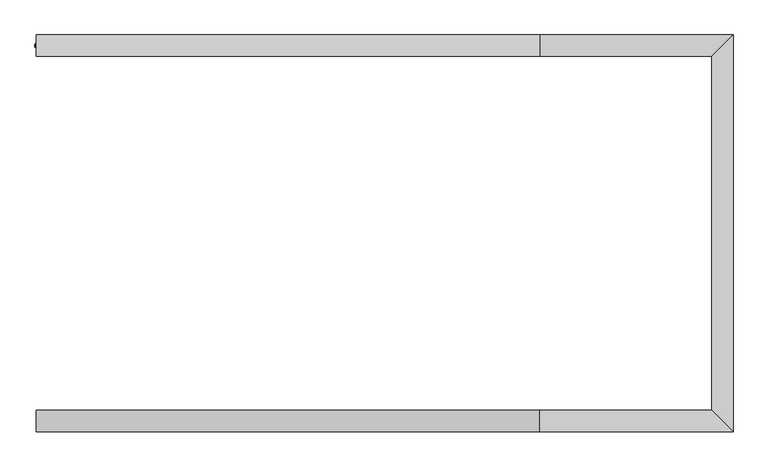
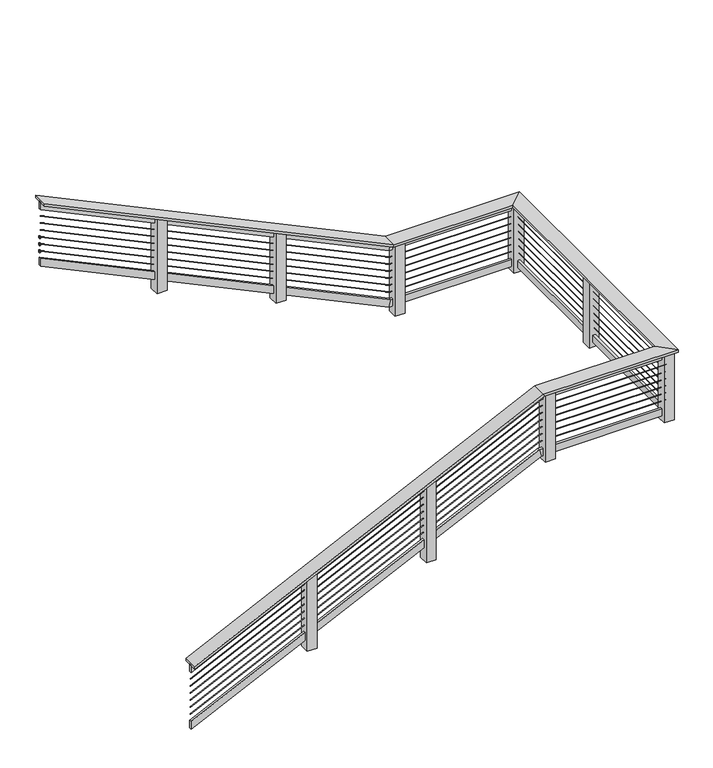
"""IFC4 building model written with IfcOpenShell, lengths in millimetres: railing geometry, HandiSwage Cable Railing System."""

from ifc_helpers import new_model, si_unit, point, frame, origin, place, context, project, spatial, polyline, circle_curve, ellipse_curve, trimmed, outline, extrude, faceted_brep, source, transform, mapped, element, save
from ifc_brep_helpers import plane_surface, cylinder_surface, revolved_surface, advanced_brep


def railing_a2ca8ca1(model_context):
    return source(origin(), model_context, "Body", "SolidModel", [
        faceted_brep([(1654.9861243, 1016.2935787, 921.4786723), (1654.9861243, 1168.6935787, 921.4786723), (1654.9861243, 1168.6935787, 893.366387), (1654.9861243, 1016.2935787, 893.366387), (5230.3519234, 1016.2935787, 2617.3043478), (5230.3519234, 1168.6935787, 2617.3043478), (5236.0703251, 1168.6935787, 2591.9043478), (5236.0703251, 1016.2935787, 2591.9043478), (6607.9861243, 1016.2935787, 2617.3043478), (6455.5861243, 1168.6935787, 2617.3043478), (6455.5861243, 1168.6935787, 2591.9043478), (6607.9861243, 1016.2935787, 2591.9043478), (6607.9861243, 3835.6935787, 2617.3043478), (6455.5861243, 3683.2935787, 2617.3043478), (6455.5861243, 3683.2935787, 2591.9043478), (6607.9861243, 3835.6935787, 2591.9043478), (5236.0703251, 3835.6935787, 2617.3043478), (5236.0703251, 3683.2935787, 2617.3043478), (5230.3519234, 3683.2935787, 2591.9043478), (5230.3519234, 3835.6935787, 2591.9043478), (1654.9861243, 3835.6935787, 4315.8423087), (1654.9861243, 3835.6935787, 4287.7300233), (1654.9861243, 3683.2935787, 4287.7300233), (1654.9861243, 3683.2935787, 4315.8423087)], [[[0, 1, 2, 3]], [[1, 0, 4, 5]], [[2, 1, 5, 6]], [[3, 2, 6, 7]], [[0, 3, 7, 4]], [[5, 4, 8, 9]], [[6, 5, 9, 10]], [[7, 6, 10, 11]], [[4, 7, 11, 8]], [[9, 8, 12, 13]], [[10, 9, 13, 14]], [[11, 10, 14, 15]], [[8, 11, 15, 12]], [[13, 12, 16, 17]], [[14, 13, 17, 18]], [[15, 14, 18, 19]], [[12, 15, 19, 16]], [[20, 21, 22, 23]], [[17, 16, 20, 23]], [[18, 17, 23, 22]], [[19, 18, 22, 21]], [[16, 19, 21, 20]]]),
        faceted_brep([(1654.9861243, 1079.7935787, 898.7909577), (1654.9861243, 1105.1935787, 898.7909577), (1654.9861243, 1105.1935787, 814.4541016), (1654.9861243, 1079.7935787, 814.4541016), (5224.6335217, 1079.7935787, 2591.9043478), (5224.6335217, 1105.1935787, 2591.9043478), (5241.7887268, 1105.1935787, 2515.7043478), (5241.7887268, 1079.7935787, 2515.7043478), (6544.4861243, 1079.7935787, 2591.9043478), (6519.0861243, 1105.1935787, 2591.9043478), (6519.0861243, 1105.1935787, 2515.7043478), (6544.4861243, 1079.7935787, 2515.7043478), (6544.4861243, 3772.1935787, 2591.9043478), (6519.0861243, 3746.7935787, 2591.9043478), (6519.0861243, 3746.7935787, 2515.7043478), (6544.4861243, 3772.1935787, 2515.7043478), (5241.7887268, 3772.1935787, 2591.9043478), (5241.7887268, 3746.7935787, 2591.9043478), (5224.6335217, 3746.7935787, 2515.7043478), (5224.6335217, 3772.1935787, 2515.7043478), (1654.9861243, 3772.1935787, 4293.1545941), (1654.9861243, 3772.1935787, 4208.8177379), (1654.9861243, 3746.7935787, 4208.8177379), (1654.9861243, 3746.7935787, 4293.1545941)], [[[0, 1, 2, 3]], [[1, 0, 4, 5]], [[2, 1, 5, 6]], [[3, 2, 6, 7]], [[0, 3, 7, 4]], [[5, 4, 8, 9]], [[6, 5, 9, 10]], [[7, 6, 10, 11]], [[4, 7, 11, 8]], [[9, 8, 12, 13]], [[10, 9, 13, 14]], [[11, 10, 14, 15]], [[8, 11, 15, 12]], [[13, 12, 16, 17]], [[14, 13, 17, 18]], [[15, 14, 18, 19]], [[12, 15, 19, 16]], [[20, 21, 22, 23]], [[17, 16, 20, 23]], [[18, 17, 23, 22]], [[19, 18, 22, 21]], [[16, 19, 21, 20]]]),
        advanced_brep(
        [(1654.9861243, 1094.0314985, 742.3225296), (1654.9861243, 1090.955659, 742.3225296), (5233.2111243, 1094.0314985, 2439.5043478), (5233.2111243, 1090.955659, 2439.5043478), (6530.2482045, 1094.0314985, 2439.5043478), (6533.324044, 1090.955659, 2439.5043478), (6530.2482045, 3757.955659, 2439.5043478), (6533.324044, 3761.0314985, 2439.5043478), (5233.2111243, 3757.955659, 2439.5043478), (5233.2111243, 3761.0314985, 2439.5043478), (1654.9861243, 3757.955659, 4136.686166), (1654.9861243, 3761.0314985, 4136.686166)],
        [
            (0, 1, ellipse_curve(frame((1654.9861243, 1092.4935787, 742.3225296), z_axis=(-1.0, 0.0, 0.0), x_axis=(0.0, 0.0, -1.0)), 1.7021433, 1.5379197)),
            (1, 0, ellipse_curve(frame((1654.9861243, 1092.4935787, 742.3225296), z_axis=(-1.0, 0.0, 0.0), x_axis=(0.0, 0.0, -1.0)), 1.7021433, 1.5379197)),
            (0, 2),
            (2, 3, ellipse_curve(frame((5233.2111243, 1092.4935787, 2439.5043478), z_axis=(-0.9755817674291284, 0.0, -0.21963655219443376), x_axis=(0.2196365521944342, 0.0, -0.9755817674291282)), 1.576413, 1.5379197)),
            (3, 1),
            (3, 2, ellipse_curve(frame((5233.2111243, 1092.4935787, 2439.5043478), z_axis=(-0.9755817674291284, 0.0, -0.21963655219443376), x_axis=(0.2196365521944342, 0.0, -0.9755817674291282)), 1.576413, 1.5379197)),
            (2, 4),
            (4, 5, ellipse_curve(frame((6531.7861243, 1092.4935787, 2439.5043478), z_axis=(-0.7071067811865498, -0.7071067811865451, 0.0), x_axis=(-0.7071067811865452, 0.7071067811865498, 0.0)), 2.174947, 1.5379197)),
            (5, 3),
            (5, 4, ellipse_curve(frame((6531.7861243, 1092.4935787, 2439.5043478), z_axis=(-0.7071067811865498, -0.7071067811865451, 0.0), x_axis=(-0.7071067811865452, 0.7071067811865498, 0.0)), 2.174947, 1.5379197)),
            (4, 6),
            (6, 7, ellipse_curve(frame((6531.7861243, 3759.4935787, 2439.5043478), z_axis=(0.7071067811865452, -0.7071067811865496, 0.0), x_axis=(-0.7071067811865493, -0.7071067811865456, 0.0)), 2.174947, 1.5379197)),
            (7, 5),
            (7, 6, ellipse_curve(frame((6531.7861243, 3759.4935787, 2439.5043478), z_axis=(0.7071067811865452, -0.7071067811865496, 0.0), x_axis=(-0.7071067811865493, -0.7071067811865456, 0.0)), 2.174947, 1.5379197)),
            (6, 8),
            (8, 9, ellipse_curve(frame((5233.2111243, 3759.4935787, 2439.5043478), z_axis=(0.975581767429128, 0.0, -0.21963655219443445), x_axis=(0.21963655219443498, 0.0, 0.975581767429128)), 1.576413, 1.5379197)),
            (9, 7),
            (9, 8, ellipse_curve(frame((5233.2111243, 3759.4935787, 2439.5043478), z_axis=(0.975581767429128, 0.0, -0.21963655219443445), x_axis=(0.21963655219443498, 0.0, 0.975581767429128)), 1.576413, 1.5379197)),
            (10, 11, ellipse_curve(frame((1654.9861243, 3759.4935787, 4136.686166), z_axis=(-1.0, 0.0, 0.0), x_axis=(0.0, 0.0, -1.0)), 1.7021433, 1.5379197)),
            (11, 10, ellipse_curve(frame((1654.9861243, 3759.4935787, 4136.686166), z_axis=(-1.0, 0.0, 0.0), x_axis=(0.0, 0.0, -1.0)), 1.7021433, 1.5379197)),
            (8, 10),
            (11, 9),
        ],
        [
            plane_surface(frame((1654.9861243, 1092.4935787, 742.3225296), z_axis=(-1.0, 0.0, 0.0), x_axis=(0.0, 1.0, 0.0))),
            cylinder_surface(frame((1654.9861243, 1092.4935787, 742.3225296), z_axis=(-0.9035195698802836, 0.0, -0.4285468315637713), x_axis=(0.0, -1.0, 0.0)), 1.5379197),
            cylinder_surface(frame((5233.2111243, 1092.4935787, 2439.5043478), z_axis=(-1.0, 0.0, 0.0), x_axis=(0.0, -1.0, 0.0)), 1.5379197),
            cylinder_surface(frame((6531.7861243, 1092.4935787, 2439.5043478), z_axis=(0.0, -1.0, 0.0), x_axis=(1.0, 0.0, 0.0)), 1.5379197),
            cylinder_surface(frame((6531.7861243, 3759.4935787, 2439.5043478), z_axis=(1.0, 0.0, 0.0), x_axis=(0.0, 1.0, 0.0)), 1.5379197),
            plane_surface(frame((1654.9861243, 3759.4935787, 4136.686166), z_axis=(-1.0, 0.0, 0.0), x_axis=(0.0, -1.0, 0.0))),
            cylinder_surface(frame((5233.2111243, 3759.4935787, 2439.5043478), z_axis=(0.9035195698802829, 0.0, -0.4285468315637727), x_axis=(0.0, 1.0, 0.0)), 1.5379197),
        ],
        [
            (0, [[1, 2]]),
            (1, [[-1, 3, 4, 5]]),
            (1, [[-2, -5, 6, -3]]),
            (2, [[-4, 7, 8, 9]]),
            (2, [[-6, -9, 10, -7]]),
            (3, [[-8, 11, 12, 13]]),
            (3, [[-10, -13, 14, -11]]),
            (4, [[-12, 15, 16, 17]]),
            (4, [[-14, -17, 18, -15]]),
            (5, [[19, 20]]),
            (6, [[-16, 21, -20, 22]]),
            (6, [[-18, -22, -19, -21]]),
        ],
    ),
        advanced_brep(
        [(1654.9861243, 1094.0314985, 666.1225296), (1654.9861243, 1090.955659, 666.1225296), (5233.2111243, 1094.0314985, 2363.3043478), (5233.2111243, 1090.955659, 2363.3043478), (6530.2482045, 1094.0314985, 2363.3043478), (6533.324044, 1090.955659, 2363.3043478), (6530.2482045, 3757.955659, 2363.3043478), (6533.324044, 3761.0314985, 2363.3043478), (5233.2111243, 3757.955659, 2363.3043478), (5233.2111243, 3761.0314985, 2363.3043478), (1654.9861243, 3757.955659, 4060.486166), (1654.9861243, 3761.0314985, 4060.486166)],
        [
            (0, 1, ellipse_curve(frame((1654.9861243, 1092.4935787, 666.1225296), z_axis=(-1.0, 0.0, 0.0), x_axis=(0.0, 0.0, -1.0)), 1.7021433, 1.5379197)),
            (1, 0, ellipse_curve(frame((1654.9861243, 1092.4935787, 666.1225296), z_axis=(-1.0, 0.0, 0.0), x_axis=(0.0, 0.0, -1.0)), 1.7021433, 1.5379197)),
            (0, 2),
            (2, 3, ellipse_curve(frame((5233.2111243, 1092.4935787, 2363.3043478), z_axis=(-0.9755817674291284, 0.0, -0.21963655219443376), x_axis=(0.2196365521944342, 0.0, -0.9755817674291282)), 1.576413, 1.5379197)),
            (3, 1),
            (3, 2, ellipse_curve(frame((5233.2111243, 1092.4935787, 2363.3043478), z_axis=(-0.9755817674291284, 0.0, -0.21963655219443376), x_axis=(0.2196365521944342, 0.0, -0.9755817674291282)), 1.576413, 1.5379197)),
            (2, 4),
            (4, 5, ellipse_curve(frame((6531.7861243, 1092.4935787, 2363.3043478), z_axis=(-0.7071067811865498, -0.7071067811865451, 0.0), x_axis=(-0.7071067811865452, 0.7071067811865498, 0.0)), 2.174947, 1.5379197)),
            (5, 3),
            (5, 4, ellipse_curve(frame((6531.7861243, 1092.4935787, 2363.3043478), z_axis=(-0.7071067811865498, -0.7071067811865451, 0.0), x_axis=(-0.7071067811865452, 0.7071067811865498, 0.0)), 2.174947, 1.5379197)),
            (4, 6),
            (6, 7, ellipse_curve(frame((6531.7861243, 3759.4935787, 2363.3043478), z_axis=(0.7071067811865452, -0.7071067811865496, 0.0), x_axis=(-0.7071067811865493, -0.7071067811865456, 0.0)), 2.174947, 1.5379197)),
            (7, 5),
            (7, 6, ellipse_curve(frame((6531.7861243, 3759.4935787, 2363.3043478), z_axis=(0.7071067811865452, -0.7071067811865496, 0.0), x_axis=(-0.7071067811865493, -0.7071067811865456, 0.0)), 2.174947, 1.5379197)),
            (6, 8),
            (8, 9, ellipse_curve(frame((5233.2111243, 3759.4935787, 2363.3043478), z_axis=(0.975581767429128, 0.0, -0.21963655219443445), x_axis=(0.21963655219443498, 0.0, 0.975581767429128)), 1.576413, 1.5379197)),
            (9, 7),
            (9, 8, ellipse_curve(frame((5233.2111243, 3759.4935787, 2363.3043478), z_axis=(0.975581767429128, 0.0, -0.21963655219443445), x_axis=(0.21963655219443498, 0.0, 0.975581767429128)), 1.576413, 1.5379197)),
            (10, 11, ellipse_curve(frame((1654.9861243, 3759.4935787, 4060.486166), z_axis=(-1.0, 0.0, 0.0), x_axis=(0.0, 0.0, -1.0)), 1.7021433, 1.5379197)),
            (11, 10, ellipse_curve(frame((1654.9861243, 3759.4935787, 4060.486166), z_axis=(-1.0, 0.0, 0.0), x_axis=(0.0, 0.0, -1.0)), 1.7021433, 1.5379197)),
            (8, 10),
            (11, 9),
        ],
        [
            plane_surface(frame((1654.9861243, 1092.4935787, 666.1225296), z_axis=(-1.0, 0.0, 0.0), x_axis=(0.0, 1.0, 0.0))),
            cylinder_surface(frame((1654.9861243, 1092.4935787, 666.1225296), z_axis=(-0.9035195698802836, 0.0, -0.4285468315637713), x_axis=(0.0, -1.0, 0.0)), 1.5379197),
            cylinder_surface(frame((5233.2111243, 1092.4935787, 2363.3043478), z_axis=(-1.0, 0.0, 0.0), x_axis=(0.0, -1.0, 0.0)), 1.5379197),
            cylinder_surface(frame((6531.7861243, 1092.4935787, 2363.3043478), z_axis=(0.0, -1.0, 0.0), x_axis=(1.0, 0.0, 0.0)), 1.5379197),
            cylinder_surface(frame((6531.7861243, 3759.4935787, 2363.3043478), z_axis=(1.0, 0.0, 0.0), x_axis=(0.0, 1.0, 0.0)), 1.5379197),
            plane_surface(frame((1654.9861243, 3759.4935787, 4060.486166), z_axis=(-1.0, 0.0, 0.0), x_axis=(0.0, -1.0, 0.0))),
            cylinder_surface(frame((5233.2111243, 3759.4935787, 2363.3043478), z_axis=(0.9035195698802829, 0.0, -0.4285468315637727), x_axis=(0.0, 1.0, 0.0)), 1.5379197),
        ],
        [
            (0, [[1, 2]]),
            (1, [[-1, 3, 4, 5]]),
            (1, [[-2, -5, 6, -3]]),
            (2, [[-4, 7, 8, 9]]),
            (2, [[-6, -9, 10, -7]]),
            (3, [[-8, 11, 12, 13]]),
            (3, [[-10, -13, 14, -11]]),
            (4, [[-12, 15, 16, 17]]),
            (4, [[-14, -17, 18, -15]]),
            (5, [[19, 20]]),
            (6, [[-16, 21, -20, 22]]),
            (6, [[-18, -22, -19, -21]]),
        ],
    ),
        advanced_brep(
        [(1654.9861243, 1094.0314985, 589.9225296), (1654.9861243, 1090.955659, 589.9225296), (5233.2111243, 1094.0314985, 2287.1043478), (5233.2111243, 1090.955659, 2287.1043478), (6530.2482045, 1094.0314985, 2287.1043478), (6533.324044, 1090.955659, 2287.1043478), (6530.2482045, 3757.955659, 2287.1043478), (6533.324044, 3761.0314985, 2287.1043478), (5233.2111243, 3757.955659, 2287.1043478), (5233.2111243, 3761.0314985, 2287.1043478), (1654.9861243, 3757.955659, 3984.286166), (1654.9861243, 3761.0314985, 3984.286166)],
        [
            (0, 1, ellipse_curve(frame((1654.9861243, 1092.4935787, 589.9225296), z_axis=(-1.0, 0.0, 0.0), x_axis=(0.0, 0.0, -1.0)), 1.7021433, 1.5379197)),
            (1, 0, ellipse_curve(frame((1654.9861243, 1092.4935787, 589.9225296), z_axis=(-1.0, 0.0, 0.0), x_axis=(0.0, 0.0, -1.0)), 1.7021433, 1.5379197)),
            (0, 2),
            (2, 3, ellipse_curve(frame((5233.2111243, 1092.4935787, 2287.1043478), z_axis=(-0.9755817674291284, 0.0, -0.2196365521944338), x_axis=(0.21963655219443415, 0.0, -0.9755817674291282)), 1.576413, 1.5379197)),
            (3, 1),
            (3, 2, ellipse_curve(frame((5233.2111243, 1092.4935787, 2287.1043478), z_axis=(-0.9755817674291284, 0.0, -0.2196365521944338), x_axis=(0.21963655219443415, 0.0, -0.9755817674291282)), 1.576413, 1.5379197)),
            (2, 4),
            (4, 5, ellipse_curve(frame((6531.7861243, 1092.4935787, 2287.1043478), z_axis=(-0.7071067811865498, -0.7071067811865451, 0.0), x_axis=(-0.7071067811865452, 0.7071067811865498, 0.0)), 2.174947, 1.5379197)),
            (5, 3),
            (5, 4, ellipse_curve(frame((6531.7861243, 1092.4935787, 2287.1043478), z_axis=(-0.7071067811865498, -0.7071067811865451, 0.0), x_axis=(-0.7071067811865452, 0.7071067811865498, 0.0)), 2.174947, 1.5379197)),
            (4, 6),
            (6, 7, ellipse_curve(frame((6531.7861243, 3759.4935787, 2287.1043478), z_axis=(0.7071067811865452, -0.7071067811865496, 0.0), x_axis=(-0.7071067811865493, -0.7071067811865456, 0.0)), 2.174947, 1.5379197)),
            (7, 5),
            (7, 6, ellipse_curve(frame((6531.7861243, 3759.4935787, 2287.1043478), z_axis=(0.7071067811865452, -0.7071067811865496, 0.0), x_axis=(-0.7071067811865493, -0.7071067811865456, 0.0)), 2.174947, 1.5379197)),
            (6, 8),
            (8, 9, ellipse_curve(frame((5233.2111243, 3759.4935787, 2287.1043478), z_axis=(0.975581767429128, 0.0, -0.21963655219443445), x_axis=(0.21963655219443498, 0.0, 0.975581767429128)), 1.576413, 1.5379197)),
            (9, 7),
            (9, 8, ellipse_curve(frame((5233.2111243, 3759.4935787, 2287.1043478), z_axis=(0.975581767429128, 0.0, -0.21963655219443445), x_axis=(0.21963655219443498, 0.0, 0.975581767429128)), 1.576413, 1.5379197)),
            (10, 11, ellipse_curve(frame((1654.9861243, 3759.4935787, 3984.286166), z_axis=(-1.0, 0.0, 0.0), x_axis=(0.0, 0.0, -1.0)), 1.7021433, 1.5379197)),
            (11, 10, ellipse_curve(frame((1654.9861243, 3759.4935787, 3984.286166), z_axis=(-1.0, 0.0, 0.0), x_axis=(0.0, 0.0, -1.0)), 1.7021433, 1.5379197)),
            (8, 10),
            (11, 9),
        ],
        [
            plane_surface(frame((1654.9861243, 1092.4935787, 589.9225296), z_axis=(-1.0, 0.0, 0.0), x_axis=(0.0, 1.0, 0.0))),
            cylinder_surface(frame((1654.9861243, 1092.4935787, 589.9225296), z_axis=(-0.9035195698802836, 0.0, -0.4285468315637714), x_axis=(0.0, -1.0, 0.0)), 1.5379197),
            cylinder_surface(frame((5233.2111243, 1092.4935787, 2287.1043478), z_axis=(-1.0, 0.0, 0.0), x_axis=(0.0, -1.0, 0.0)), 1.5379197),
            cylinder_surface(frame((6531.7861243, 1092.4935787, 2287.1043478), z_axis=(0.0, -1.0, 0.0), x_axis=(1.0, 0.0, 0.0)), 1.5379197),
            cylinder_surface(frame((6531.7861243, 3759.4935787, 2287.1043478), z_axis=(1.0, 0.0, 0.0), x_axis=(0.0, 1.0, 0.0)), 1.5379197),
            plane_surface(frame((1654.9861243, 3759.4935787, 3984.286166), z_axis=(-1.0, 0.0, 0.0), x_axis=(0.0, -1.0, 0.0))),
            cylinder_surface(frame((5233.2111243, 3759.4935787, 2287.1043478), z_axis=(0.9035195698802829, 0.0, -0.4285468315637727), x_axis=(0.0, 1.0, 0.0)), 1.5379197),
        ],
        [
            (0, [[1, 2]]),
            (1, [[-1, 3, 4, 5]]),
            (1, [[-2, -5, 6, -3]]),
            (2, [[-4, 7, 8, 9]]),
            (2, [[-6, -9, 10, -7]]),
            (3, [[-8, 11, 12, 13]]),
            (3, [[-10, -13, 14, -11]]),
            (4, [[-12, 15, 16, 17]]),
            (4, [[-14, -17, 18, -15]]),
            (5, [[19, 20]]),
            (6, [[-16, 21, -20, 22]]),
            (6, [[-18, -22, -19, -21]]),
        ],
    ),
        advanced_brep(
        [(1654.9861243, 1094.0314985, 513.7225296), (1654.9861243, 1090.955659, 513.7225296), (5233.2111243, 1094.0314985, 2210.9043478), (5233.2111243, 1090.955659, 2210.9043478), (6530.2482045, 1094.0314985, 2210.9043478), (6533.324044, 1090.955659, 2210.9043478), (6530.2482045, 3757.955659, 2210.9043478), (6533.324044, 3761.0314985, 2210.9043478), (5233.2111243, 3757.955659, 2210.9043478), (5233.2111243, 3761.0314985, 2210.9043478), (1654.9861243, 3757.955659, 3908.086166), (1654.9861243, 3761.0314985, 3908.086166)],
        [
            (0, 1, ellipse_curve(frame((1654.9861243, 1092.4935787, 513.7225296), z_axis=(-1.0, 0.0, 0.0), x_axis=(0.0, 0.0, -1.0)), 1.7021433, 1.5379197)),
            (1, 0, ellipse_curve(frame((1654.9861243, 1092.4935787, 513.7225296), z_axis=(-1.0, 0.0, 0.0), x_axis=(0.0, 0.0, -1.0)), 1.7021433, 1.5379197)),
            (0, 2),
            (2, 3, ellipse_curve(frame((5233.2111243, 1092.4935787, 2210.9043478), z_axis=(-0.9755817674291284, 0.0, -0.2196365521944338), x_axis=(0.21963655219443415, 0.0, -0.9755817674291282)), 1.576413, 1.5379197)),
            (3, 1),
            (3, 2, ellipse_curve(frame((5233.2111243, 1092.4935787, 2210.9043478), z_axis=(-0.9755817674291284, 0.0, -0.2196365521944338), x_axis=(0.21963655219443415, 0.0, -0.9755817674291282)), 1.576413, 1.5379197)),
            (2, 4),
            (4, 5, ellipse_curve(frame((6531.7861243, 1092.4935787, 2210.9043478), z_axis=(-0.7071067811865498, -0.7071067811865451, 0.0), x_axis=(-0.7071067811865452, 0.7071067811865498, 0.0)), 2.174947, 1.5379197)),
            (5, 3),
            (5, 4, ellipse_curve(frame((6531.7861243, 1092.4935787, 2210.9043478), z_axis=(-0.7071067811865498, -0.7071067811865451, 0.0), x_axis=(-0.7071067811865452, 0.7071067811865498, 0.0)), 2.174947, 1.5379197)),
            (4, 6),
            (6, 7, ellipse_curve(frame((6531.7861243, 3759.4935787, 2210.9043478), z_axis=(0.7071067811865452, -0.7071067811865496, 0.0), x_axis=(-0.7071067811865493, -0.7071067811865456, 0.0)), 2.174947, 1.5379197)),
            (7, 5),
            (7, 6, ellipse_curve(frame((6531.7861243, 3759.4935787, 2210.9043478), z_axis=(0.7071067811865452, -0.7071067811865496, 0.0), x_axis=(-0.7071067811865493, -0.7071067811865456, 0.0)), 2.174947, 1.5379197)),
            (6, 8),
            (8, 9, ellipse_curve(frame((5233.2111243, 3759.4935787, 2210.9043478), z_axis=(0.975581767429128, 0.0, -0.21963655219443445), x_axis=(0.21963655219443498, 0.0, 0.975581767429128)), 1.576413, 1.5379197)),
            (9, 7),
            (9, 8, ellipse_curve(frame((5233.2111243, 3759.4935787, 2210.9043478), z_axis=(0.975581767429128, 0.0, -0.21963655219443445), x_axis=(0.21963655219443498, 0.0, 0.975581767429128)), 1.576413, 1.5379197)),
            (10, 11, ellipse_curve(frame((1654.9861243, 3759.4935787, 3908.086166), z_axis=(-1.0, 0.0, 0.0), x_axis=(0.0, 0.0, -1.0)), 1.7021433, 1.5379197)),
            (11, 10, ellipse_curve(frame((1654.9861243, 3759.4935787, 3908.086166), z_axis=(-1.0, 0.0, 0.0), x_axis=(0.0, 0.0, -1.0)), 1.7021433, 1.5379197)),
            (8, 10),
            (11, 9),
        ],
        [
            plane_surface(frame((1654.9861243, 1092.4935787, 513.7225296), z_axis=(-1.0, 0.0, 0.0), x_axis=(0.0, 1.0, 0.0))),
            cylinder_surface(frame((1654.9861243, 1092.4935787, 513.7225296), z_axis=(-0.9035195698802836, 0.0, -0.4285468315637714), x_axis=(0.0, -1.0, 0.0)), 1.5379197),
            cylinder_surface(frame((5233.2111243, 1092.4935787, 2210.9043478), z_axis=(-1.0, 0.0, 0.0), x_axis=(0.0, -1.0, 0.0)), 1.5379197),
            cylinder_surface(frame((6531.7861243, 1092.4935787, 2210.9043478), z_axis=(0.0, -1.0, 0.0), x_axis=(1.0, 0.0, 0.0)), 1.5379197),
            cylinder_surface(frame((6531.7861243, 3759.4935787, 2210.9043478), z_axis=(1.0, 0.0, 0.0), x_axis=(0.0, 1.0, 0.0)), 1.5379197),
            plane_surface(frame((1654.9861243, 3759.4935787, 3908.086166), z_axis=(-1.0, 0.0, 0.0), x_axis=(0.0, -1.0, 0.0))),
            cylinder_surface(frame((5233.2111243, 3759.4935787, 2210.9043478), z_axis=(0.9035195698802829, 0.0, -0.4285468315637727), x_axis=(0.0, 1.0, 0.0)), 1.5379197),
        ],
        [
            (0, [[1, 2]]),
            (1, [[-1, 3, 4, 5]]),
            (1, [[-2, -5, 6, -3]]),
            (2, [[-4, 7, 8, 9]]),
            (2, [[-6, -9, 10, -7]]),
            (3, [[-8, 11, 12, 13]]),
            (3, [[-10, -13, 14, -11]]),
            (4, [[-12, 15, 16, 17]]),
            (4, [[-14, -17, 18, -15]]),
            (5, [[19, 20]]),
            (6, [[-16, 21, -20, 22]]),
            (6, [[-18, -22, -19, -21]]),
        ],
    ),
        advanced_brep(
        [(1654.9861243, 1094.0314985, 437.5225296), (1654.9861243, 1090.955659, 437.5225296), (5233.2111243, 1094.0314985, 2134.7043478), (5233.2111243, 1090.955659, 2134.7043478), (6530.2482045, 1094.0314985, 2134.7043478), (6533.324044, 1090.955659, 2134.7043478), (6530.2482045, 3757.955659, 2134.7043478), (6533.324044, 3761.0314985, 2134.7043478), (5233.2111243, 3757.955659, 2134.7043478), (5233.2111243, 3761.0314985, 2134.7043478), (1654.9861243, 3757.955659, 3831.886166), (1654.9861243, 3761.0314985, 3831.886166)],
        [
            (0, 1, ellipse_curve(frame((1654.9861243, 1092.4935787, 437.5225296), z_axis=(-1.0, 0.0, 0.0), x_axis=(0.0, 0.0, -1.0)), 1.7021433, 1.5379197)),
            (1, 0, ellipse_curve(frame((1654.9861243, 1092.4935787, 437.5225296), z_axis=(-1.0, 0.0, 0.0), x_axis=(0.0, 0.0, -1.0)), 1.7021433, 1.5379197)),
            (0, 2),
            (2, 3, ellipse_curve(frame((5233.2111243, 1092.4935787, 2134.7043478), z_axis=(-0.9755817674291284, 0.0, -0.2196365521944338), x_axis=(0.21963655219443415, 0.0, -0.9755817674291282)), 1.576413, 1.5379197)),
            (3, 1),
            (3, 2, ellipse_curve(frame((5233.2111243, 1092.4935787, 2134.7043478), z_axis=(-0.9755817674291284, 0.0, -0.2196365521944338), x_axis=(0.21963655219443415, 0.0, -0.9755817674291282)), 1.576413, 1.5379197)),
            (2, 4),
            (4, 5, ellipse_curve(frame((6531.7861243, 1092.4935787, 2134.7043478), z_axis=(-0.7071067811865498, -0.7071067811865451, 0.0), x_axis=(-0.7071067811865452, 0.7071067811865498, 0.0)), 2.174947, 1.5379197)),
            (5, 3),
            (5, 4, ellipse_curve(frame((6531.7861243, 1092.4935787, 2134.7043478), z_axis=(-0.7071067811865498, -0.7071067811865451, 0.0), x_axis=(-0.7071067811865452, 0.7071067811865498, 0.0)), 2.174947, 1.5379197)),
            (4, 6),
            (6, 7, ellipse_curve(frame((6531.7861243, 3759.4935787, 2134.7043478), z_axis=(0.7071067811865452, -0.7071067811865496, 0.0), x_axis=(-0.7071067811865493, -0.7071067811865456, 0.0)), 2.174947, 1.5379197)),
            (7, 5),
            (7, 6, ellipse_curve(frame((6531.7861243, 3759.4935787, 2134.7043478), z_axis=(0.7071067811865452, -0.7071067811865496, 0.0), x_axis=(-0.7071067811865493, -0.7071067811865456, 0.0)), 2.174947, 1.5379197)),
            (6, 8),
            (8, 9, ellipse_curve(frame((5233.2111243, 3759.4935787, 2134.7043478), z_axis=(0.975581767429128, 0.0, -0.21963655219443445), x_axis=(0.21963655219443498, 0.0, 0.975581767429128)), 1.576413, 1.5379197)),
            (9, 7),
            (9, 8, ellipse_curve(frame((5233.2111243, 3759.4935787, 2134.7043478), z_axis=(0.975581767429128, 0.0, -0.21963655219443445), x_axis=(0.21963655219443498, 0.0, 0.975581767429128)), 1.576413, 1.5379197)),
            (10, 11, ellipse_curve(frame((1654.9861243, 3759.4935787, 3831.886166), z_axis=(-1.0, 0.0, 0.0), x_axis=(0.0, 0.0, -1.0)), 1.7021433, 1.5379197)),
            (11, 10, ellipse_curve(frame((1654.9861243, 3759.4935787, 3831.886166), z_axis=(-1.0, 0.0, 0.0), x_axis=(0.0, 0.0, -1.0)), 1.7021433, 1.5379197)),
            (8, 10),
            (11, 9),
        ],
        [
            plane_surface(frame((1654.9861243, 1092.4935787, 437.5225296), z_axis=(-1.0, 0.0, 0.0), x_axis=(0.0, 1.0, 0.0))),
            cylinder_surface(frame((1654.9861243, 1092.4935787, 437.5225296), z_axis=(-0.9035195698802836, 0.0, -0.4285468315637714), x_axis=(0.0, -1.0, 0.0)), 1.5379197),
            cylinder_surface(frame((5233.2111243, 1092.4935787, 2134.7043478), z_axis=(-1.0, 0.0, 0.0), x_axis=(0.0, -1.0, 0.0)), 1.5379197),
            cylinder_surface(frame((6531.7861243, 1092.4935787, 2134.7043478), z_axis=(0.0, -1.0, 0.0), x_axis=(1.0, 0.0, 0.0)), 1.5379197),
            cylinder_surface(frame((6531.7861243, 3759.4935787, 2134.7043478), z_axis=(1.0, 0.0, 0.0), x_axis=(0.0, 1.0, 0.0)), 1.5379197),
            plane_surface(frame((1654.9861243, 3759.4935787, 3831.886166), z_axis=(-1.0, 0.0, 0.0), x_axis=(0.0, -1.0, 0.0))),
            cylinder_surface(frame((5233.2111243, 3759.4935787, 2134.7043478), z_axis=(0.9035195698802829, 0.0, -0.4285468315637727), x_axis=(0.0, 1.0, 0.0)), 1.5379197),
        ],
        [
            (0, [[1, 2]]),
            (1, [[-1, 3, 4, 5]]),
            (1, [[-2, -5, 6, -3]]),
            (2, [[-4, 7, 8, 9]]),
            (2, [[-6, -9, 10, -7]]),
            (3, [[-8, 11, 12, 13]]),
            (3, [[-10, -13, 14, -11]]),
            (4, [[-12, 15, 16, 17]]),
            (4, [[-14, -17, 18, -15]]),
            (5, [[19, 20]]),
            (6, [[-16, 21, -20, 22]]),
            (6, [[-18, -22, -19, -21]]),
        ],
    ),
        advanced_brep(
        [(1654.9861243, 1094.0314985, 361.3225296), (1654.9861243, 1090.955659, 361.3225296), (5233.2111243, 1094.0314985, 2058.5043478), (5233.2111243, 1090.955659, 2058.5043478), (6530.2482045, 1094.0314985, 2058.5043478), (6533.324044, 1090.955659, 2058.5043478), (6530.2482045, 3757.955659, 2058.5043478), (6533.324044, 3761.0314985, 2058.5043478), (5233.2111243, 3757.955659, 2058.5043478), (5233.2111243, 3761.0314985, 2058.5043478), (1654.9861243, 3757.955659, 3755.686166), (1654.9861243, 3761.0314985, 3755.686166)],
        [
            (0, 1, ellipse_curve(frame((1654.9861243, 1092.4935787, 361.3225296), z_axis=(-1.0, 0.0, 0.0), x_axis=(0.0, 0.0, -1.0)), 1.7021433, 1.5379197)),
            (1, 0, ellipse_curve(frame((1654.9861243, 1092.4935787, 361.3225296), z_axis=(-1.0, 0.0, 0.0), x_axis=(0.0, 0.0, -1.0)), 1.7021433, 1.5379197)),
            (0, 2),
            (2, 3, ellipse_curve(frame((5233.2111243, 1092.4935787, 2058.5043478), z_axis=(-0.9755817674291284, 0.0, -0.2196365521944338), x_axis=(0.21963655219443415, 0.0, -0.9755817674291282)), 1.576413, 1.5379197)),
            (3, 1),
            (3, 2, ellipse_curve(frame((5233.2111243, 1092.4935787, 2058.5043478), z_axis=(-0.9755817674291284, 0.0, -0.2196365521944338), x_axis=(0.21963655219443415, 0.0, -0.9755817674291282)), 1.576413, 1.5379197)),
            (2, 4),
            (4, 5, ellipse_curve(frame((6531.7861243, 1092.4935787, 2058.5043478), z_axis=(-0.7071067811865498, -0.7071067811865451, 0.0), x_axis=(-0.7071067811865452, 0.7071067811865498, 0.0)), 2.174947, 1.5379197)),
            (5, 3),
            (5, 4, ellipse_curve(frame((6531.7861243, 1092.4935787, 2058.5043478), z_axis=(-0.7071067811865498, -0.7071067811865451, 0.0), x_axis=(-0.7071067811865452, 0.7071067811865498, 0.0)), 2.174947, 1.5379197)),
            (4, 6),
            (6, 7, ellipse_curve(frame((6531.7861243, 3759.4935787, 2058.5043478), z_axis=(0.7071067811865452, -0.7071067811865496, 0.0), x_axis=(-0.7071067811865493, -0.7071067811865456, 0.0)), 2.174947, 1.5379197)),
            (7, 5),
            (7, 6, ellipse_curve(frame((6531.7861243, 3759.4935787, 2058.5043478), z_axis=(0.7071067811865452, -0.7071067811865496, 0.0), x_axis=(-0.7071067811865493, -0.7071067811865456, 0.0)), 2.174947, 1.5379197)),
            (6, 8),
            (8, 9, ellipse_curve(frame((5233.2111243, 3759.4935787, 2058.5043478), z_axis=(0.975581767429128, 0.0, -0.21963655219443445), x_axis=(0.21963655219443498, 0.0, 0.975581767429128)), 1.576413, 1.5379197)),
            (9, 7),
            (9, 8, ellipse_curve(frame((5233.2111243, 3759.4935787, 2058.5043478), z_axis=(0.975581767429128, 0.0, -0.21963655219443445), x_axis=(0.21963655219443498, 0.0, 0.975581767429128)), 1.576413, 1.5379197)),
            (10, 11, ellipse_curve(frame((1654.9861243, 3759.4935787, 3755.686166), z_axis=(-1.0, 0.0, 0.0), x_axis=(0.0, 0.0, -1.0)), 1.7021433, 1.5379197)),
            (11, 10, ellipse_curve(frame((1654.9861243, 3759.4935787, 3755.686166), z_axis=(-1.0, 0.0, 0.0), x_axis=(0.0, 0.0, -1.0)), 1.7021433, 1.5379197)),
            (8, 10),
            (11, 9),
        ],
        [
            plane_surface(frame((1654.9861243, 1092.4935787, 361.3225296), z_axis=(-1.0, 0.0, 0.0), x_axis=(0.0, 1.0, 0.0))),
            cylinder_surface(frame((1654.9861243, 1092.4935787, 361.3225296), z_axis=(-0.9035195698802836, 0.0, -0.4285468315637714), x_axis=(0.0, -1.0, 0.0)), 1.5379197),
            cylinder_surface(frame((5233.2111243, 1092.4935787, 2058.5043478), z_axis=(-1.0, 0.0, 0.0), x_axis=(0.0, -1.0, 0.0)), 1.5379197),
            cylinder_surface(frame((6531.7861243, 1092.4935787, 2058.5043478), z_axis=(0.0, -1.0, 0.0), x_axis=(1.0, 0.0, 0.0)), 1.5379197),
            cylinder_surface(frame((6531.7861243, 3759.4935787, 2058.5043478), z_axis=(1.0, 0.0, 0.0), x_axis=(0.0, 1.0, 0.0)), 1.5379197),
            plane_surface(frame((1654.9861243, 3759.4935787, 3755.686166), z_axis=(-1.0, 0.0, 0.0), x_axis=(0.0, -1.0, 0.0))),
            cylinder_surface(frame((5233.2111243, 3759.4935787, 2058.5043478), z_axis=(0.9035195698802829, 0.0, -0.4285468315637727), x_axis=(0.0, 1.0, 0.0)), 1.5379197),
        ],
        [
            (0, [[1, 2]]),
            (1, [[-1, 3, 4, 5]]),
            (1, [[-2, -5, 6, -3]]),
            (2, [[-4, 7, 8, 9]]),
            (2, [[-6, -9, 10, -7]]),
            (3, [[-8, 11, 12, 13]]),
            (3, [[-10, -13, 14, -11]]),
            (4, [[-12, 15, 16, 17]]),
            (4, [[-14, -17, 18, -15]]),
            (5, [[19, 20]]),
            (6, [[-16, 21, -20, 22]]),
            (6, [[-18, -22, -19, -21]]),
        ],
    ),
        faceted_brep([(1654.9861243, 1079.7935787, 289.1909577), (1654.9861243, 1105.1935787, 289.1909577), (1654.9861243, 1105.1935787, 204.8541016), (1654.9861243, 1079.7935787, 204.8541016), (5224.6335217, 1079.7935787, 1982.3043478), (5224.6335217, 1105.1935787, 1982.3043478), (5241.7887268, 1105.1935787, 1906.1043478), (5241.7887268, 1079.7935787, 1906.1043478), (6544.4861243, 1079.7935787, 1982.3043478), (6519.0861243, 1105.1935787, 1982.3043478), (6519.0861243, 1105.1935787, 1906.1043478), (6544.4861243, 1079.7935787, 1906.1043478), (6544.4861243, 3772.1935787, 1982.3043478), (6519.0861243, 3746.7935787, 1982.3043478), (6519.0861243, 3746.7935787, 1906.1043478), (6544.4861243, 3772.1935787, 1906.1043478), (5241.7887268, 3772.1935787, 1982.3043478), (5241.7887268, 3746.7935787, 1982.3043478), (5224.6335217, 3746.7935787, 1906.1043478), (5224.6335217, 3772.1935787, 1906.1043478), (1654.9861243, 3772.1935787, 3683.5545941), (1654.9861243, 3772.1935787, 3599.2177379), (1654.9861243, 3746.7935787, 3599.2177379), (1654.9861243, 3746.7935787, 3683.5545941)], [[[0, 1, 2, 3]], [[1, 0, 4, 5]], [[2, 1, 5, 6]], [[3, 2, 6, 7]], [[0, 3, 7, 4]], [[5, 4, 8, 9]], [[6, 5, 9, 10]], [[7, 6, 10, 11]], [[4, 7, 11, 8]], [[9, 8, 12, 13]], [[10, 9, 13, 14]], [[11, 10, 14, 15]], [[8, 11, 15, 12]], [[13, 12, 16, 17]], [[14, 13, 17, 18]], [[15, 14, 18, 19]], [[12, 15, 19, 16]], [[20, 21, 22, 23]], [[17, 16, 20, 23]], [[18, 17, 23, 22]], [[19, 18, 22, 21]], [[16, 19, 21, 20]]]),
        extrude(outline(polyline([(2915.4782609, 2924.9861243), (3685.3584818, 2924.9861243), (3733.5482051, 2823.3861243), (2915.4782609, 2823.3861243), (2915.4782609, 2924.9861243)])), frame((0.0, 3708.6935787, 0.0), z_axis=(0.0, 1.0, 0.0), x_axis=(0.0, 0.0, 1.0)), (0.0, 0.0, 1.0), 101.6),
        extrude(outline(polyline([(2385.3913043, 4144.1861243), (3107.081802, 4144.1861243), (3155.2715253, 4042.5861243), (2385.3913043, 4042.5861243), (2385.3913043, 4144.1861243)])), frame((0.0, 3708.6935787, 0.0), z_axis=(0.0, 1.0, 0.0), x_axis=(0.0, 0.0, 1.0)), (0.0, 0.0, 1.0), 101.6),
        extrude(outline(polyline([(5363.3861243, 3810.2935787), (5363.3861243, 3708.6935787), (5261.7861243, 3708.6935787), (5261.7861243, 3810.2935787), (5363.3861243, 3810.2935787)])), frame((0.0, 0.0, 1817.6561265), z_axis=(0.0, 0.0, 1.0), x_axis=(1.0, 0.0, 0.0)), (0.0, 0.0, 1.0), 774.2482213),
        extrude(outline(polyline([(6582.5861243, 3810.2935787), (6582.5861243, 3708.6935787), (6480.9861243, 3708.6935787), (6480.9861243, 3810.2935787), (6582.5861243, 3810.2935787)])), frame((0.0, 0.0, 1855.3043478), z_axis=(0.0, 0.0, 1.0), x_axis=(1.0, 0.0, 0.0)), (0.0, 0.0, 1.0), 736.6),
        extrude(outline(polyline([(6582.5861243, 3708.6935787), (6480.9861243, 3708.6935787), (6480.9861243, 3810.2935787), (6582.5861243, 3810.2935787), (6582.5861243, 3708.6935787)])), frame((0.0, 0.0, 1855.3043478), z_axis=(0.0, 0.0, 1.0), x_axis=(1.0, 0.0, 0.0)), (0.0, 0.0, 1.0), 736.6),
        extrude(outline(polyline([(6582.5861243, 2375.1935787), (6480.9861243, 2375.1935787), (6480.9861243, 2476.7935787), (6582.5861243, 2476.7935787), (6582.5861243, 2375.1935787)])), frame((0.0, 0.0, 1855.3043478), z_axis=(0.0, 0.0, 1.0), x_axis=(1.0, 0.0, 0.0)), (0.0, 0.0, 1.0), 736.6),
        extrude(outline(polyline([(6582.5861243, 1041.6935787), (6480.9861243, 1041.6935787), (6480.9861243, 1143.2935787), (6582.5861243, 1143.2935787), (6582.5861243, 1041.6935787)])), frame((0.0, 0.0, 1855.3043478), z_axis=(0.0, 0.0, 1.0), x_axis=(1.0, 0.0, 0.0)), (0.0, 0.0, 1.0), 736.6),
        extrude(outline(polyline([(6480.9861243, 1041.6935787), (6480.9861243, 1143.2935787), (6582.5861243, 1143.2935787), (6582.5861243, 1041.6935787), (6480.9861243, 1041.6935787)])), frame((0.0, 0.0, 1855.3043478), z_axis=(0.0, 0.0, 1.0), x_axis=(1.0, 0.0, 0.0)), (0.0, 0.0, 1.0), 736.6),
        extrude(outline(polyline([(5261.7861243, 1041.6935787), (5261.7861243, 1143.2935787), (5363.3861243, 1143.2935787), (5363.3861243, 1041.6935787), (5261.7861243, 1041.6935787)])), frame((0.0, 0.0, 1855.3043478), z_axis=(0.0, 0.0, 1.0), x_axis=(1.0, 0.0, 0.0)), (0.0, 0.0, 1.0), 736.6),
        extrude(outline(polyline([(2025.824885, 4042.5861243), (1192.6956522, 4042.5861243), (1192.6956522, 4144.1861243), (2074.0146083, 4144.1861243), (2025.824885, 4042.5861243)])), frame((0.0, 1041.6935787, 0.0), z_axis=(0.0, 1.0, 0.0), x_axis=(0.0, 0.0, 1.0)), (0.0, 0.0, 1.0), 101.6),
        extrude(outline(polyline([(1447.5482051, 2823.3861243), (662.6086957, 2823.3861243), (662.6086957, 2924.9861243), (1495.7379285, 2924.9861243), (1447.5482051, 2823.3861243)])), frame((0.0, 1041.6935787, 0.0), z_axis=(0.0, 1.0, 0.0), x_axis=(0.0, 0.0, 1.0)), (0.0, 0.0, 1.0), 101.6),
        advanced_brep(
        [(1654.9861243, 3759.4935787, 3756.137795), (1654.9861243, 3759.4935787, 3743.437795), (1654.9861243, 3759.4935787, 3768.837795), (1645.4611243, 3759.4935787, 3746.612795), (1645.4611243, 3759.4935787, 3756.137795), (1645.4611243, 3759.4935787, 3765.662795), (1648.6361243, 3759.4935787, 3743.437795), (1648.6361243, 3759.4935787, 3768.837795)],
        [
            (0, 1),
            (1, 2, circle_curve(frame((1654.9861243, 3759.4935787, 3756.137795), z_axis=(1.0, 0.0, 0.0), x_axis=(0.0, 0.0, 1.0)), 12.7)),
            (2, 0),
            (2, 1, circle_curve(frame((1654.9861243, 3759.4935787, 3756.137795), z_axis=(1.0, 0.0, 0.0), x_axis=(0.0, 0.0, 1.0)), 12.7)),
            (3, 4),
            (4, 5),
            (5, 3, circle_curve(frame((1645.4611243, 3759.4935787, 3756.137795), z_axis=(-1.0, 0.0, 0.0), x_axis=(0.0, 0.0, 1.0)), 9.525)),
            (3, 5, circle_curve(frame((1645.4611243, 3759.4935787, 3756.137795), z_axis=(-1.0, 0.0, 0.0), x_axis=(0.0, 0.0, 1.0)), 9.525)),
            (1, 6),
            (6, 7, circle_curve(frame((1648.6361243, 3759.4935787, 3756.137795), z_axis=(1.0, 0.0, 0.0), x_axis=(0.0, 0.0, 1.0)), 12.7)),
            (7, 2),
            (7, 6, circle_curve(frame((1648.6361243, 3759.4935787, 3756.137795), z_axis=(1.0, 0.0, 0.0), x_axis=(0.0, 0.0, 1.0)), 12.7)),
            (6, 3, circle_curve(frame((1648.6361243, 3759.4935787, 3746.612795), z_axis=(0.0, 1.0, 0.0), x_axis=(-1.0, 0.0, 0.0)), 3.175)),
            (5, 7, circle_curve(frame((1648.6361243, 3759.4935787, 3765.662795), z_axis=(0.0, 1.0, 0.0), x_axis=(-1.0, 0.0, 0.0)), 3.175)),
        ],
        [
            plane_surface(frame((1654.9861243, 3759.4935787, 3756.137795), z_axis=(1.0, 0.0, 0.0), x_axis=(0.0, 0.0, 1.0))),
            plane_surface(frame((1645.4611243, 3759.4935787, 3756.137795), z_axis=(-1.0, 0.0, 0.0), x_axis=(0.0, 0.0, 1.0))),
            cylinder_surface(frame((1654.9861243, 3759.4935787, 3756.137795), z_axis=(1.0, 0.0, 0.0), x_axis=(0.0, 0.0, 1.0)), 12.7),
            revolved_surface(trimmed(ellipse_curve(frame((1648.6361243, 3759.4935787, 3765.662795), z_axis=(0.0, 1.0, 0.0), x_axis=(-1.0, 0.0, 0.0)), 3.175, 3.175), [point((1645.4611243, 3759.4935787, 3765.662795))], [point((1648.6361243, 3759.4935787, 3768.837795))], True, "CARTESIAN"), (1654.9861243, 3759.4935787, 3756.137795), (1.0, 0.0, 0.0)),
        ],
        [
            (0, [[1, 2, 3]]),
            (0, [[-3, 4, -1]]),
            (1, [[5, 6, 7]]),
            (1, [[-6, -5, 8]]),
            (2, [[9, 10, 11, -2]]),
            (2, [[-11, 12, -9, -4]]),
            (3, [[13, -7, 14, -10]]),
            (3, [[-14, -8, -13, -12]]),
        ],
    ),
        advanced_brep(
        [(1654.9861243, 3759.4935787, 3832.337795), (1654.9861243, 3759.4935787, 3819.637795), (1654.9861243, 3759.4935787, 3845.037795), (1645.4611243, 3759.4935787, 3822.812795), (1645.4611243, 3759.4935787, 3832.337795), (1645.4611243, 3759.4935787, 3841.862795), (1648.6361243, 3759.4935787, 3819.637795), (1648.6361243, 3759.4935787, 3845.037795)],
        [
            (0, 1),
            (1, 2, circle_curve(frame((1654.9861243, 3759.4935787, 3832.337795), z_axis=(1.0, 0.0, 0.0), x_axis=(0.0, 0.0, 1.0)), 12.7)),
            (2, 0),
            (2, 1, circle_curve(frame((1654.9861243, 3759.4935787, 3832.337795), z_axis=(1.0, 0.0, 0.0), x_axis=(0.0, 0.0, 1.0)), 12.7)),
            (3, 4),
            (4, 5),
            (5, 3, circle_curve(frame((1645.4611243, 3759.4935787, 3832.337795), z_axis=(-1.0, 0.0, 0.0), x_axis=(0.0, 0.0, 1.0)), 9.525)),
            (3, 5, circle_curve(frame((1645.4611243, 3759.4935787, 3832.337795), z_axis=(-1.0, 0.0, 0.0), x_axis=(0.0, 0.0, 1.0)), 9.525)),
            (1, 6),
            (6, 7, circle_curve(frame((1648.6361243, 3759.4935787, 3832.337795), z_axis=(1.0, 0.0, 0.0), x_axis=(0.0, 0.0, 1.0)), 12.7)),
            (7, 2),
            (7, 6, circle_curve(frame((1648.6361243, 3759.4935787, 3832.337795), z_axis=(1.0, 0.0, 0.0), x_axis=(0.0, 0.0, 1.0)), 12.7)),
            (6, 3, circle_curve(frame((1648.6361243, 3759.4935787, 3822.812795), z_axis=(0.0, 1.0, 0.0), x_axis=(-1.0, 0.0, 0.0)), 3.175)),
            (5, 7, circle_curve(frame((1648.6361243, 3759.4935787, 3841.862795), z_axis=(0.0, 1.0, 0.0), x_axis=(-1.0, 0.0, 0.0)), 3.175)),
        ],
        [
            plane_surface(frame((1654.9861243, 3759.4935787, 3832.337795), z_axis=(1.0, 0.0, 0.0), x_axis=(0.0, 0.0, 1.0))),
            plane_surface(frame((1645.4611243, 3759.4935787, 3832.337795), z_axis=(-1.0, 0.0, 0.0), x_axis=(0.0, 0.0, 1.0))),
            cylinder_surface(frame((1654.9861243, 3759.4935787, 3832.337795), z_axis=(1.0, 0.0, 0.0), x_axis=(0.0, 0.0, 1.0)), 12.7),
            revolved_surface(trimmed(ellipse_curve(frame((1648.6361243, 3759.4935787, 3841.862795), z_axis=(0.0, 1.0, 0.0), x_axis=(-1.0, 0.0, 0.0)), 3.175, 3.175), [point((1645.4611243, 3759.4935787, 3841.862795))], [point((1648.6361243, 3759.4935787, 3845.037795))], True, "CARTESIAN"), (1654.9861243, 3759.4935787, 3832.337795), (1.0, 0.0, 0.0)),
        ],
        [
            (0, [[1, 2, 3]]),
            (0, [[-3, 4, -1]]),
            (1, [[5, 6, 7]]),
            (1, [[-6, -5, 8]]),
            (2, [[9, 10, 11, -2]]),
            (2, [[-11, 12, -9, -4]]),
            (3, [[13, -7, 14, -10]]),
            (3, [[-14, -8, -13, -12]]),
        ],
    ),
        advanced_brep(
        [(1654.9861243, 3759.4935787, 3908.537795), (1654.9861243, 3759.4935787, 3895.837795), (1654.9861243, 3759.4935787, 3921.237795), (1645.4611243, 3759.4935787, 3899.012795), (1645.4611243, 3759.4935787, 3908.537795), (1645.4611243, 3759.4935787, 3918.062795), (1648.6361243, 3759.4935787, 3895.837795), (1648.6361243, 3759.4935787, 3921.237795)],
        [
            (0, 1),
            (1, 2, circle_curve(frame((1654.9861243, 3759.4935787, 3908.537795), z_axis=(1.0, 0.0, 0.0), x_axis=(0.0, 0.0, 1.0)), 12.7)),
            (2, 0),
            (2, 1, circle_curve(frame((1654.9861243, 3759.4935787, 3908.537795), z_axis=(1.0, 0.0, 0.0), x_axis=(0.0, 0.0, 1.0)), 12.7)),
            (3, 4),
            (4, 5),
            (5, 3, circle_curve(frame((1645.4611243, 3759.4935787, 3908.537795), z_axis=(-1.0, 0.0, 0.0), x_axis=(0.0, 0.0, 1.0)), 9.525)),
            (3, 5, circle_curve(frame((1645.4611243, 3759.4935787, 3908.537795), z_axis=(-1.0, 0.0, 0.0), x_axis=(0.0, 0.0, 1.0)), 9.525)),
            (1, 6),
            (6, 7, circle_curve(frame((1648.6361243, 3759.4935787, 3908.537795), z_axis=(1.0, 0.0, 0.0), x_axis=(0.0, 0.0, 1.0)), 12.7)),
            (7, 2),
            (7, 6, circle_curve(frame((1648.6361243, 3759.4935787, 3908.537795), z_axis=(1.0, 0.0, 0.0), x_axis=(0.0, 0.0, 1.0)), 12.7)),
            (6, 3, circle_curve(frame((1648.6361243, 3759.4935787, 3899.012795), z_axis=(0.0, 1.0, 0.0), x_axis=(-1.0, 0.0, 0.0)), 3.175)),
            (5, 7, circle_curve(frame((1648.6361243, 3759.4935787, 3918.062795), z_axis=(0.0, 1.0, 0.0), x_axis=(-1.0, 0.0, 0.0)), 3.175)),
        ],
        [
            plane_surface(frame((1654.9861243, 3759.4935787, 3908.537795), z_axis=(1.0, 0.0, 0.0), x_axis=(0.0, 0.0, 1.0))),
            plane_surface(frame((1645.4611243, 3759.4935787, 3908.537795), z_axis=(-1.0, 0.0, 0.0), x_axis=(0.0, 0.0, 1.0))),
            cylinder_surface(frame((1654.9861243, 3759.4935787, 3908.537795), z_axis=(1.0, 0.0, 0.0), x_axis=(0.0, 0.0, 1.0)), 12.7),
            revolved_surface(trimmed(ellipse_curve(frame((1648.6361243, 3759.4935787, 3918.062795), z_axis=(0.0, 1.0, 0.0), x_axis=(-1.0, 0.0, 0.0)), 3.175, 3.175), [point((1645.4611243, 3759.4935787, 3918.062795))], [point((1648.6361243, 3759.4935787, 3921.237795))], True, "CARTESIAN"), (1654.9861243, 3759.4935787, 3908.537795), (1.0, 0.0, 0.0)),
        ],
        [
            (0, [[1, 2, 3]]),
            (0, [[-3, 4, -1]]),
            (1, [[5, 6, 7]]),
            (1, [[-6, -5, 8]]),
            (2, [[9, 10, 11, -2]]),
            (2, [[-11, 12, -9, -4]]),
            (3, [[13, -7, 14, -10]]),
            (3, [[-14, -8, -13, -12]]),
        ],
    ),
    ])


if __name__ == "__main__":
    model = new_model("IFC4")
    model_context = context("Model", 3, world=origin())
    ifc_project = project(units=[si_unit("LENGTHUNIT", "METRE", prefix="MILLI")], contexts=[model_context])
    site = spatial("IfcSite", under=ifc_project)
    building = spatial("IfcBuilding", under=site)
    placement = place(None, origin())
    railing_shape = railing_a2ca8ca1(model_context)
    element("IfcRailing", 1, ObjectType="HandiSwage Cable Railing System", at=placement, inside=building, context=model_context, shape_type="MappedRepresentation", body=[
        mapped(railing_shape, transform((0.0, 0.0, 0.0), x_axis=(1.0, 0.0, 0.0), y_axis=(0.0, 1.0, 0.0), z_axis=(0.0, 0.0, 1.0))),
    ])
    save(model, "model.ifc")
